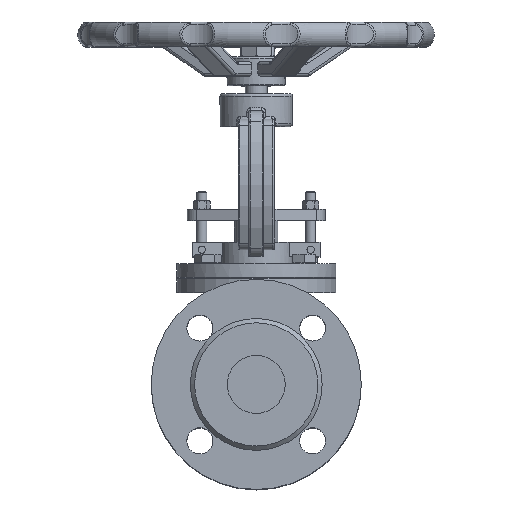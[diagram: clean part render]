
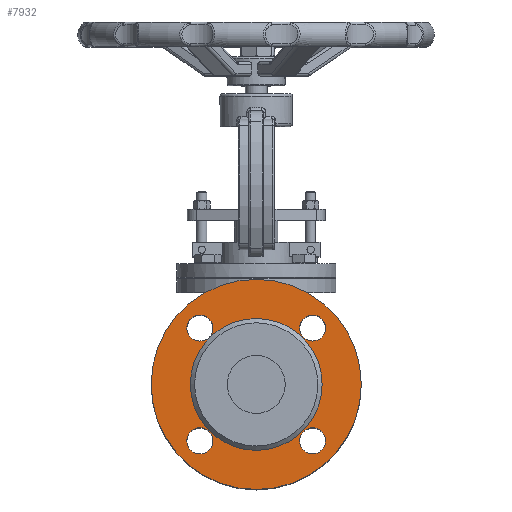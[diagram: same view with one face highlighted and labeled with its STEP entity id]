
A CAD part, top view. The second image highlights one B-rep face of the part: STEP entity #7932.
In plain terms, the highlighted planar face has unit normal (0, 0, 1).
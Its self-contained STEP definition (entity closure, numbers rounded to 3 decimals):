
#7932=ADVANCED_FACE('',(#16963,#16965,#16967,#16969,#16971,#16973),#16975,.T.);
#16963=FACE_BOUND('',#16964,.T.);
#16964=EDGE_LOOP('',(#23355));
#16965=FACE_BOUND('',#16966,.T.);
#16966=EDGE_LOOP('',(#23356));
#16967=FACE_BOUND('',#16968,.T.);
#16968=EDGE_LOOP('',(#23357));
#16969=FACE_BOUND('',#16970,.T.);
#16970=EDGE_LOOP('',(#23358));
#16971=FACE_BOUND('',#16972,.T.);
#16972=EDGE_LOOP('',(#23359));
#16973=FACE_BOUND('',#16974,.T.);
#16974=EDGE_LOOP('',(#23360));
#16975=PLANE('',#16976);
#16976=AXIS2_PLACEMENT_3D('',#16977,#16978,#16979);
#16977=CARTESIAN_POINT('',(0.,0.,97.));
#16978=DIRECTION('',(0.,0.,1.));
#16979=DIRECTION('',(0.,1.,0.));
#23355=ORIENTED_EDGE('',*,*,#25811,.F.);
#23356=ORIENTED_EDGE('',*,*,#25812,.T.);
#23357=ORIENTED_EDGE('',*,*,#25813,.T.);
#23358=ORIENTED_EDGE('',*,*,#26011,.T.);
#23359=ORIENTED_EDGE('',*,*,#25814,.T.);
#23360=ORIENTED_EDGE('',*,*,#25815,.T.);
#25811=EDGE_CURVE('',#29404,#29404,#29405,.T.);
#25812=EDGE_CURVE('',#29406,#29406,#29407,.F.);
#25813=EDGE_CURVE('',#29408,#29408,#29409,.F.);
#25814=EDGE_CURVE('',#29410,#29410,#29411,.F.);
#25815=EDGE_CURVE('',#29412,#29412,#29413,.F.);
#26011=EDGE_CURVE('',#29724,#29724,#29725,.T.);
#29404=VERTEX_POINT('',#55326);
#29405=CIRCLE('',#55327,72.5);
#29406=VERTEX_POINT('',#55331);
#29407=CIRCLE('',#55332,9.);
#29408=VERTEX_POINT('',#55336);
#29409=CIRCLE('',#55337,9.);
#29410=VERTEX_POINT('',#55341);
#29411=CIRCLE('',#55342,9.);
#29412=VERTEX_POINT('',#55346);
#29413=CIRCLE('',#55347,9.);
#29724=VERTEX_POINT('',#56339);
#29725=CIRCLE('',#56340,45.5);
#55326=CARTESIAN_POINT('',(0.,72.5,97.));
#55327=AXIS2_PLACEMENT_3D('',#55328,#55329,#55330);
#55328=CARTESIAN_POINT('',(0.,0.,97.));
#55329=DIRECTION('',(0.,0.,-1.));
#55330=DIRECTION('',(0.,1.,0.));
#55331=CARTESIAN_POINT('',(-38.891,-29.891,97.));
#55332=AXIS2_PLACEMENT_3D('',#55333,#55334,#55335);
#55333=CARTESIAN_POINT('',(-38.891,-38.891,97.));
#55334=DIRECTION('',(0.,0.,1.));
#55335=DIRECTION('',(0.,1.,0.));
#55336=CARTESIAN_POINT('',(38.891,29.891,97.));
#55337=AXIS2_PLACEMENT_3D('',#55338,#55339,#55340);
#55338=CARTESIAN_POINT('',(38.891,38.891,97.));
#55339=DIRECTION('',(0.,0.,1.));
#55340=DIRECTION('',(0.,-1.,0.));
#55341=CARTESIAN_POINT('',(-29.891,38.891,97.));
#55342=AXIS2_PLACEMENT_3D('',#55343,#55344,#55345);
#55343=CARTESIAN_POINT('',(-38.891,38.891,97.));
#55344=DIRECTION('',(0.,0.,1.));
#55345=DIRECTION('',(1.,0.,0.));
#55346=CARTESIAN_POINT('',(29.891,-38.891,97.));
#55347=AXIS2_PLACEMENT_3D('',#55348,#55349,#55350);
#55348=CARTESIAN_POINT('',(38.891,-38.891,97.));
#55349=DIRECTION('',(0.,0.,1.));
#55350=DIRECTION('',(-1.,0.,0.));
#56339=CARTESIAN_POINT('',(0.,45.5,97.));
#56340=AXIS2_PLACEMENT_3D('',#56341,#56342,#56343);
#56341=CARTESIAN_POINT('',(0.,0.,97.));
#56342=DIRECTION('',(0.,0.,-1.));
#56343=DIRECTION('',(0.,1.,0.));
